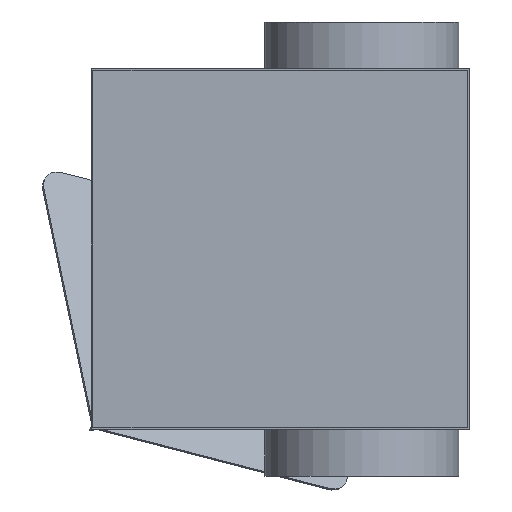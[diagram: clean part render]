
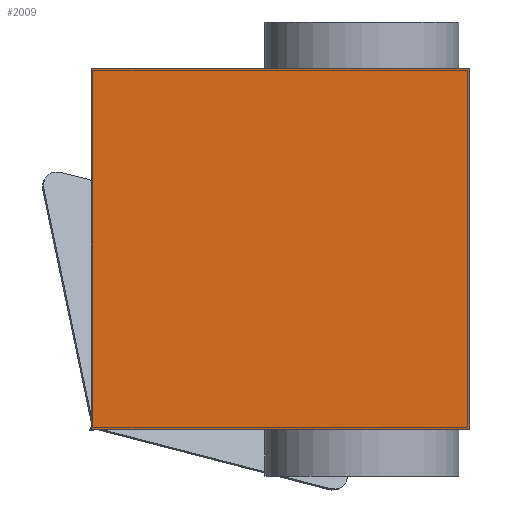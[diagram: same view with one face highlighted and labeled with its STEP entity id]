
A CAD part, top view. The second image highlights one B-rep face of the part: STEP entity #2009.
In plain terms, the highlighted planar face has unit normal (0, 0, 1).
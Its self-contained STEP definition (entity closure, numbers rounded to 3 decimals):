
#140=PLANE('',#2256);
#250=FACE_OUTER_BOUND('',#371,.T.);
#371=EDGE_LOOP('',(#1774,#1775,#1776,#1777));
#500=LINE('',#3685,#634);
#503=LINE('',#3691,#637);
#504=LINE('',#3692,#638);
#505=LINE('',#3693,#639);
#634=VECTOR('',#2796,10.);
#637=VECTOR('',#2801,10.);
#638=VECTOR('',#2802,10.);
#639=VECTOR('',#2803,10.);
#944=VERTEX_POINT('',#3683);
#945=VERTEX_POINT('',#3684);
#946=VERTEX_POINT('',#3689);
#947=VERTEX_POINT('',#3690);
#1226=EDGE_CURVE('',#944,#945,#500,.T.);
#1229=EDGE_CURVE('',#946,#947,#503,.T.);
#1230=EDGE_CURVE('',#945,#947,#504,.T.);
#1231=EDGE_CURVE('',#946,#944,#505,.T.);
#1774=ORIENTED_EDGE('',*,*,#1229,.T.);
#1775=ORIENTED_EDGE('',*,*,#1230,.F.);
#1776=ORIENTED_EDGE('',*,*,#1226,.F.);
#1777=ORIENTED_EDGE('',*,*,#1231,.F.);
#2009=ADVANCED_FACE('',(#250),#140,.T.);
#2256=AXIS2_PLACEMENT_3D('',#3688,#2799,#2800);
#2796=DIRECTION('',(0.,1.,0.));
#2799=DIRECTION('center_axis',(0.,0.,1.));
#2800=DIRECTION('ref_axis',(1.,0.,0.));
#2801=DIRECTION('',(0.,1.,0.));
#2802=DIRECTION('',(1.,0.,0.));
#2803=DIRECTION('',(-1.,0.,0.));
#3683=CARTESIAN_POINT('',(-195.,-186.,118.));
#3684=CARTESIAN_POINT('',(-195.,186.,118.));
#3685=CARTESIAN_POINT('',(-195.,0.,118.));
#3688=CARTESIAN_POINT('Origin',(-195.,0.,118.));
#3689=CARTESIAN_POINT('',(195.,-186.,118.));
#3690=CARTESIAN_POINT('',(195.,186.,118.));
#3691=CARTESIAN_POINT('',(195.,0.,118.));
#3692=CARTESIAN_POINT('',(-195.,186.,118.));
#3693=CARTESIAN_POINT('',(-195.,-186.,118.));
